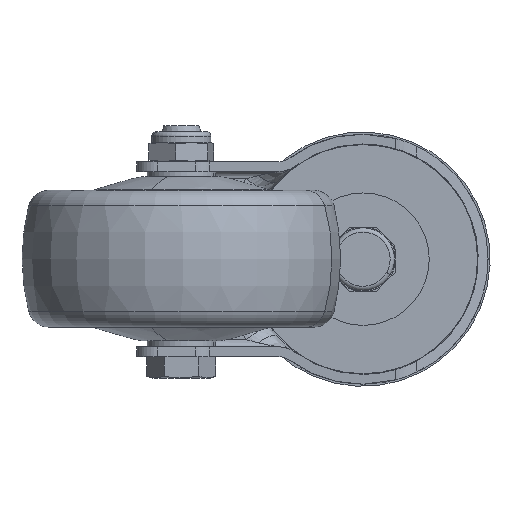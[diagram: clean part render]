
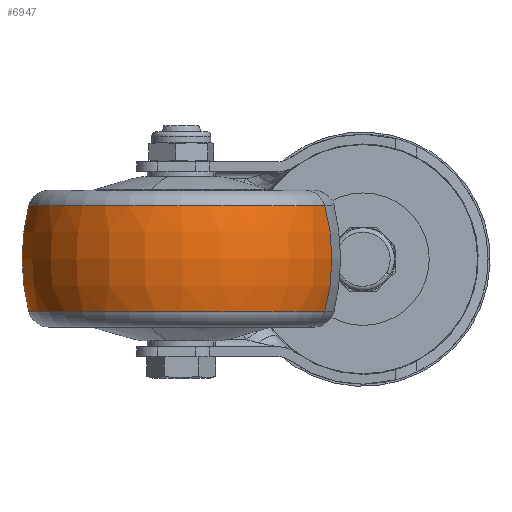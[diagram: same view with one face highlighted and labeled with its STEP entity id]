
A CAD part, front view. The second image highlights one B-rep face of the part: STEP entity #6947.
In plain terms, the highlighted toroidal (fillet/blend) face has major radius 6.667 mm and minor radius 44.167 mm.
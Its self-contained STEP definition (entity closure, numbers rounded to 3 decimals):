
#211 = ORIENTED_EDGE ( 'NONE', *, *, #10798, .T. ) ;
#628 = FACE_OUTER_BOUND ( 'NONE', #4840, .T. ) ;
#886 = DIRECTION ( 'NONE',  ( -1., 0., 0. ) ) ;
#1000 = DIRECTION ( 'NONE',  ( 0., 1., 0. ) ) ;
#1011 = ORIENTED_EDGE ( 'NONE', *, *, #11482, .T. ) ;
#1054 = AXIS2_PLACEMENT_3D ( 'NONE', #4012, #2115, #11386 ) ;
#1231 = CIRCLE ( 'NONE', #1054, 44.167 ) ;
#1441 = VERTEX_POINT ( 'NONE', #5683 ) ;
#2115 = DIRECTION ( 'NONE',  ( 0., -1., 0. ) ) ;
#2177 = ORIENTED_EDGE ( 'NONE', *, *, #4013, .F. ) ;
#2421 = DIRECTION ( 'NONE',  ( -1., 0., 0. ) ) ;
#2818 = VERTEX_POINT ( 'NONE', #10844 ) ;
#4012 = CARTESIAN_POINT ( 'NONE',  ( 0., 0., -6.667 ) ) ;
#4013 = EDGE_CURVE ( 'NONE', #5875, #2818, #11048, .T. ) ;
#4594 = TOROIDAL_SURFACE ( 'NONE', #8877, -6.667, 44.167 ) ;
#4812 = VERTEX_POINT ( 'NONE', #5248 ) ;
#4840 = EDGE_LOOP ( 'NONE', ( #2177, #211, #1011, #11965 ) ) ;
#5215 = CARTESIAN_POINT ( 'NONE',  ( 12.404, 0., 0. ) ) ;
#5248 = CARTESIAN_POINT ( 'NONE',  ( 12.404, 0., 35.722 ) ) ;
#5683 = CARTESIAN_POINT ( 'NONE',  ( -12.404, 0., 35.722 ) ) ;
#5759 = AXIS2_PLACEMENT_3D ( 'NONE', #8415, #1000, #8531 ) ;
#5875 = VERTEX_POINT ( 'NONE', #6944 ) ;
#6049 = AXIS2_PLACEMENT_3D ( 'NONE', #5215, #11726, #7045 ) ;
#6944 = CARTESIAN_POINT ( 'NONE',  ( 12.404, 0., -35.722 ) ) ;
#6947 = ADVANCED_FACE ( 'NONE', ( #628 ), #4594, .T. ) ;
#7045 = DIRECTION ( 'NONE',  ( 0., 0., 1. ) ) ;
#8305 = CARTESIAN_POINT ( 'NONE',  ( 0., 0., 0. ) ) ;
#8415 = CARTESIAN_POINT ( 'NONE',  ( 0., 0., 6.667 ) ) ;
#8531 = DIRECTION ( 'NONE',  ( 0., 0., 1. ) ) ;
#8798 = CIRCLE ( 'NONE', #6049, 35.722 ) ;
#8877 = AXIS2_PLACEMENT_3D ( 'NONE', #8305, #886, #11190 ) ;
#9571 = AXIS2_PLACEMENT_3D ( 'NONE', #11695, #2421, #10816 ) ;
#9950 = EDGE_CURVE ( 'NONE', #2818, #1441, #11161, .T. ) ;
#10798 = EDGE_CURVE ( 'NONE', #5875, #4812, #8798, .T. ) ;
#10816 = DIRECTION ( 'NONE',  ( 0., 0., 1. ) ) ;
#10844 = CARTESIAN_POINT ( 'NONE',  ( -12.404, 0., -35.722 ) ) ;
#11048 = CIRCLE ( 'NONE', #5759, 44.167 ) ;
#11161 = CIRCLE ( 'NONE', #9571, 35.722 ) ;
#11190 = DIRECTION ( 'NONE',  ( 0., 0., 1. ) ) ;
#11386 = DIRECTION ( 'NONE',  ( 0., 0., -1. ) ) ;
#11482 = EDGE_CURVE ( 'NONE', #4812, #1441, #1231, .T. ) ;
#11695 = CARTESIAN_POINT ( 'NONE',  ( -12.404, 0., 0. ) ) ;
#11726 = DIRECTION ( 'NONE',  ( -1., 0., 0. ) ) ;
#11965 = ORIENTED_EDGE ( 'NONE', *, *, #9950, .F. ) ;
